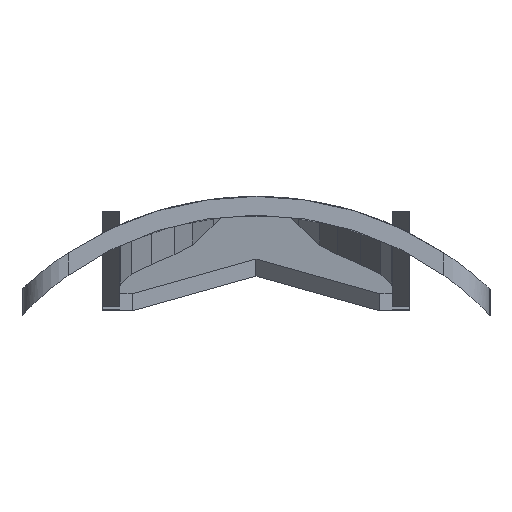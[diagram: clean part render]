
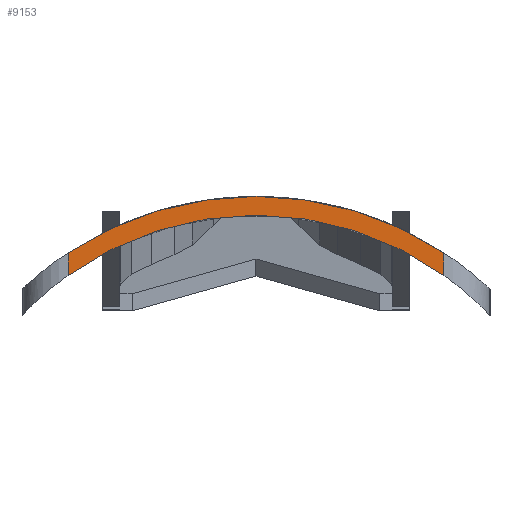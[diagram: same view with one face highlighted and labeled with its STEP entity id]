
A CAD part, left-side view. The second image highlights one B-rep face of the part: STEP entity #9153.
In plain terms, the highlighted planar face has unit normal (-1, 0, 0).
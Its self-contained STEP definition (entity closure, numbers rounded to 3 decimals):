
#21 = EDGE_CURVE('',#22,#24,#26,.T.);
#22 = VERTEX_POINT('',#23);
#23 = CARTESIAN_POINT('',(66.3,11.,16.703));
#24 = VERTEX_POINT('',#25);
#25 = CARTESIAN_POINT('',(66.3,0.,20.));
#26 = SURFACE_CURVE('',#27,(#32,#44),.PCURVE_S1.);
#27 = CIRCLE('',#28,20.);
#28 = AXIS2_PLACEMENT_3D('',#29,#30,#31);
#29 = CARTESIAN_POINT('',(66.3,0.,0.));
#30 = DIRECTION('',(1.,0.,0.));
#31 = DIRECTION('',(-0.,0.,1.));
#32 = PCURVE('',#33,#38);
#33 = CYLINDRICAL_SURFACE('',#34,20.);
#34 = AXIS2_PLACEMENT_3D('',#35,#36,#37);
#35 = CARTESIAN_POINT('',(65.,0.,0.));
#36 = DIRECTION('',(1.,0.,0.));
#37 = DIRECTION('',(-0.,0.,1.));
#38 = DEFINITIONAL_REPRESENTATION('',(#39),#43);
#39 = LINE('',#40,#41);
#40 = CARTESIAN_POINT('',(0.,1.3));
#41 = VECTOR('',#42,1.);
#42 = DIRECTION('',(1.,0.));
#43 = ( GEOMETRIC_REPRESENTATION_CONTEXT(2) 
PARAMETRIC_REPRESENTATION_CONTEXT() REPRESENTATION_CONTEXT('2D SPACE',''
  ) );
#44 = PCURVE('',#45,#50);
#45 = PLANE('',#46);
#46 = AXIS2_PLACEMENT_3D('',#47,#48,#49);
#47 = CARTESIAN_POINT('',(66.3,-13.7,5.));
#48 = DIRECTION('',(1.,0.,0.));
#49 = DIRECTION('',(0.,0.,1.));
#50 = DEFINITIONAL_REPRESENTATION('',(#51),#55);
#51 = CIRCLE('',#52,20.);
#52 = AXIS2_PLACEMENT_2D('',#53,#54);
#53 = CARTESIAN_POINT('',(-5.,-13.7));
#54 = DIRECTION('',(1.,0.));
#55 = ( GEOMETRIC_REPRESENTATION_CONTEXT(2) 
PARAMETRIC_REPRESENTATION_CONTEXT() REPRESENTATION_CONTEXT('2D SPACE',''
  ) );
#73 = CYLINDRICAL_SURFACE('',#74,20.);
#74 = AXIS2_PLACEMENT_3D('',#75,#76,#77);
#75 = CARTESIAN_POINT('',(65.,0.,0.));
#76 = DIRECTION('',(1.,0.,0.));
#77 = DIRECTION('',(-0.,0.,1.));
#830 = CYLINDRICAL_SURFACE('',#831,2.7);
#831 = AXIS2_PLACEMENT_3D('',#832,#833,#834);
#832 = CARTESIAN_POINT('',(69.,11.,5.));
#833 = DIRECTION('',(0.,0.,1.));
#834 = DIRECTION('',(-1.,-0.,0.));
#1223 = EDGE_CURVE('',#1224,#22,#1226,.T.);
#1224 = VERTEX_POINT('',#1225);
#1225 = CARTESIAN_POINT('',(66.3,11.,15.369));
#1226 = SURFACE_CURVE('',#1227,(#1231,#1238),.PCURVE_S1.);
#1227 = LINE('',#1228,#1229);
#1228 = CARTESIAN_POINT('',(66.3,11.,5.));
#1229 = VECTOR('',#1230,1.);
#1230 = DIRECTION('',(0.,0.,1.));
#1231 = PCURVE('',#830,#1232);
#1232 = DEFINITIONAL_REPRESENTATION('',(#1233),#1237);
#1233 = LINE('',#1234,#1235);
#1234 = CARTESIAN_POINT('',(-0.,0.));
#1235 = VECTOR('',#1236,1.);
#1236 = DIRECTION('',(-0.,1.));
#1237 = ( GEOMETRIC_REPRESENTATION_CONTEXT(2) 
PARAMETRIC_REPRESENTATION_CONTEXT() REPRESENTATION_CONTEXT('2D SPACE',''
  ) );
#1238 = PCURVE('',#45,#1239);
#1239 = DEFINITIONAL_REPRESENTATION('',(#1240),#1244);
#1240 = LINE('',#1241,#1242);
#1241 = CARTESIAN_POINT('',(0.,-24.7));
#1242 = VECTOR('',#1243,1.);
#1243 = DIRECTION('',(1.,0.));
#1244 = ( GEOMETRIC_REPRESENTATION_CONTEXT(2) 
PARAMETRIC_REPRESENTATION_CONTEXT() REPRESENTATION_CONTEXT('2D SPACE',''
  ) );
#1320 = CYLINDRICAL_SURFACE('',#1321,18.9);
#1321 = AXIS2_PLACEMENT_3D('',#1322,#1323,#1324);
#1322 = CARTESIAN_POINT('',(64.,0.,0.));
#1323 = DIRECTION('',(1.,0.,0.));
#1324 = DIRECTION('',(-0.,0.,1.));
#1705 = EDGE_CURVE('',#1224,#1706,#1708,.T.);
#1706 = VERTEX_POINT('',#1707);
#1707 = CARTESIAN_POINT('',(66.3,-11.,15.369));
#1708 = SURFACE_CURVE('',#1709,(#1714,#1721),.PCURVE_S1.);
#1709 = CIRCLE('',#1710,18.9);
#1710 = AXIS2_PLACEMENT_3D('',#1711,#1712,#1713);
#1711 = CARTESIAN_POINT('',(66.3,0.,0.));
#1712 = DIRECTION('',(1.,0.,0.));
#1713 = DIRECTION('',(-0.,0.582,0.813));
#1714 = PCURVE('',#1320,#1715);
#1715 = DEFINITIONAL_REPRESENTATION('',(#1716),#1720);
#1716 = LINE('',#1717,#1718);
#1717 = CARTESIAN_POINT('',(5.662,2.3));
#1718 = VECTOR('',#1719,1.);
#1719 = DIRECTION('',(1.,0.));
#1720 = ( GEOMETRIC_REPRESENTATION_CONTEXT(2) 
PARAMETRIC_REPRESENTATION_CONTEXT() REPRESENTATION_CONTEXT('2D SPACE',''
  ) );
#1721 = PCURVE('',#45,#1722);
#1722 = DEFINITIONAL_REPRESENTATION('',(#1723),#1727);
#1723 = CIRCLE('',#1724,18.9);
#1724 = AXIS2_PLACEMENT_2D('',#1725,#1726);
#1725 = CARTESIAN_POINT('',(-5.,-13.7));
#1726 = DIRECTION('',(0.813,-0.582));
#1727 = ( GEOMETRIC_REPRESENTATION_CONTEXT(2) 
PARAMETRIC_REPRESENTATION_CONTEXT() REPRESENTATION_CONTEXT('2D SPACE',''
  ) );
#1803 = CYLINDRICAL_SURFACE('',#1804,2.7);
#1804 = AXIS2_PLACEMENT_3D('',#1805,#1806,#1807);
#1805 = CARTESIAN_POINT('',(69.,-11.,5.));
#1806 = DIRECTION('',(0.,0.,1.));
#1807 = DIRECTION('',(-1.,-0.,0.));
#8081 = EDGE_CURVE('',#1706,#8082,#8084,.T.);
#8082 = VERTEX_POINT('',#8083);
#8083 = CARTESIAN_POINT('',(66.3,-11.,16.703));
#8084 = SURFACE_CURVE('',#8085,(#8089,#8096),.PCURVE_S1.);
#8085 = LINE('',#8086,#8087);
#8086 = CARTESIAN_POINT('',(66.3,-11.,5.));
#8087 = VECTOR('',#8088,1.);
#8088 = DIRECTION('',(0.,0.,1.));
#8089 = PCURVE('',#1803,#8090);
#8090 = DEFINITIONAL_REPRESENTATION('',(#8091),#8095);
#8091 = LINE('',#8092,#8093);
#8092 = CARTESIAN_POINT('',(0.,0.));
#8093 = VECTOR('',#8094,1.);
#8094 = DIRECTION('',(0.,1.));
#8095 = ( GEOMETRIC_REPRESENTATION_CONTEXT(2) 
PARAMETRIC_REPRESENTATION_CONTEXT() REPRESENTATION_CONTEXT('2D SPACE',''
  ) );
#8096 = PCURVE('',#45,#8097);
#8097 = DEFINITIONAL_REPRESENTATION('',(#8098),#8102);
#8098 = LINE('',#8099,#8100);
#8099 = CARTESIAN_POINT('',(0.,-2.7));
#8100 = VECTOR('',#8101,1.);
#8101 = DIRECTION('',(1.,0.));
#8102 = ( GEOMETRIC_REPRESENTATION_CONTEXT(2) 
PARAMETRIC_REPRESENTATION_CONTEXT() REPRESENTATION_CONTEXT('2D SPACE',''
  ) );
#8780 = EDGE_CURVE('',#24,#8082,#8781,.T.);
#8781 = SURFACE_CURVE('',#8782,(#8787,#8794),.PCURVE_S1.);
#8782 = CIRCLE('',#8783,20.);
#8783 = AXIS2_PLACEMENT_3D('',#8784,#8785,#8786);
#8784 = CARTESIAN_POINT('',(66.3,0.,0.));
#8785 = DIRECTION('',(1.,0.,0.));
#8786 = DIRECTION('',(-0.,0.,1.));
#8787 = PCURVE('',#73,#8788);
#8788 = DEFINITIONAL_REPRESENTATION('',(#8789),#8793);
#8789 = LINE('',#8790,#8791);
#8790 = CARTESIAN_POINT('',(0.,1.3));
#8791 = VECTOR('',#8792,1.);
#8792 = DIRECTION('',(1.,0.));
#8793 = ( GEOMETRIC_REPRESENTATION_CONTEXT(2) 
PARAMETRIC_REPRESENTATION_CONTEXT() REPRESENTATION_CONTEXT('2D SPACE',''
  ) );
#8794 = PCURVE('',#45,#8795);
#8795 = DEFINITIONAL_REPRESENTATION('',(#8796),#8800);
#8796 = CIRCLE('',#8797,20.);
#8797 = AXIS2_PLACEMENT_2D('',#8798,#8799);
#8798 = CARTESIAN_POINT('',(-5.,-13.7));
#8799 = DIRECTION('',(1.,0.));
#8800 = ( GEOMETRIC_REPRESENTATION_CONTEXT(2) 
PARAMETRIC_REPRESENTATION_CONTEXT() REPRESENTATION_CONTEXT('2D SPACE',''
  ) );
#9153 = ADVANCED_FACE('',(#9154),#45,.F.);
#9154 = FACE_BOUND('',#9155,.F.);
#9155 = EDGE_LOOP('',(#9156,#9157,#9158,#9159,#9160));
#9156 = ORIENTED_EDGE('',*,*,#8780,.T.);
#9157 = ORIENTED_EDGE('',*,*,#8081,.F.);
#9158 = ORIENTED_EDGE('',*,*,#1705,.F.);
#9159 = ORIENTED_EDGE('',*,*,#1223,.T.);
#9160 = ORIENTED_EDGE('',*,*,#21,.T.);
